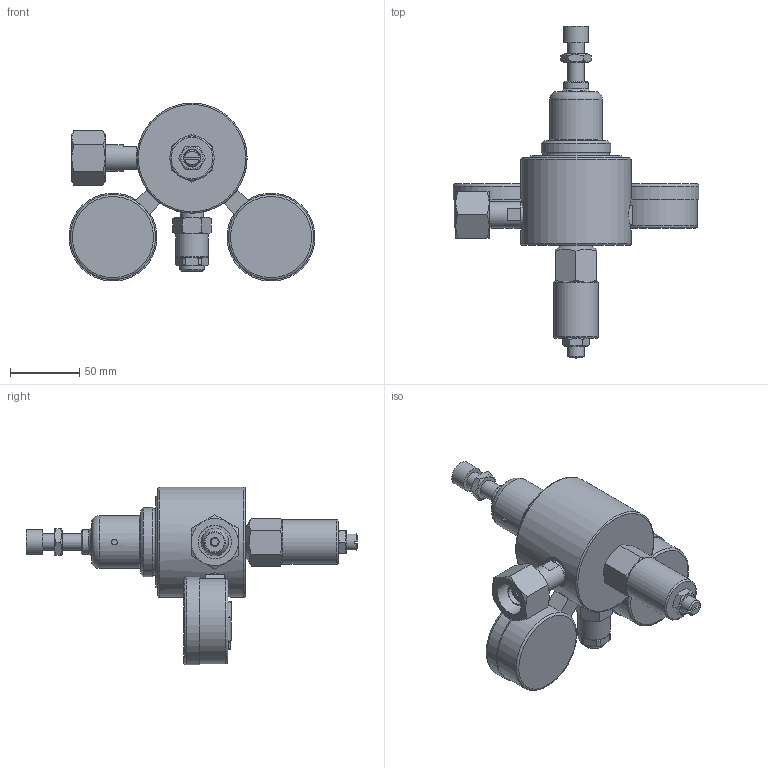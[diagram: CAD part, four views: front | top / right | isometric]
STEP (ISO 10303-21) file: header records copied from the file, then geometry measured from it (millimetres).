
FILE_DESCRIPTION(/* description */ ('PRESSURE REGULATOR'),/* implementation_level */ '2;1');
FILE_NAME(/* name */ '31200#02J0E099A38.stp',/* time_stamp */ '2024-03-22T08:53:53+01:00',/* author */ ('FrancescoLazio'),/* organization */ (''),/* preprocessor_version */ 'ST-DEVELOPER v19.2',/* originating_system */ 'Autodesk Inventor 2024',/* authorisation */ '');
FILE_SCHEMA (('AUTOMOTIVE_DESIGN { 1 0 10303 214 3 1 1 }'));
Length unit declared in the file: millimetre
Products named in the file (25): C81050; 0AANEC12; 0AANEC; 0AANCC08; 0AANEC_1; Vetro63; C43014; P43057; 0DAB10700; P20014; C51003; C51003_1; P21029; P21028; P38019; P43087; P28008; P34022; NP023.06; P43004; P20005; P28048; P47007; P28016; P25009
Assembly tree (25 placements, depth 3):
  C81050
    0AANEC12
      0AANEC
      Vetro63
    0AANCC08
      0AANEC_1
      Vetro63
    C43014
      P43057
      0DAB10700
    P20014
    C51003
      C51003_1
      P21029
      P21028
      P38019
    P43087
    P28008
    P34022
    NP023.06
    P43004
    P20005
    P28048
    P47007
    P28016
    P25009
Bounding box: 177.56 x 239.71 x 128.53 mm (x, y, z)
Volume: 382094.4 mm3; surface area: 144641.5 mm2
Topology: 22 solids, 22 shells, 345 faces, 721 edges, 465 vertices
Faces by surface type: plane 155, cylinder 92, cone 72, torus 23, bspline 2, sphere 1
Full cylindrical faces by diameter (mm): 4 x1, 4.2 x1, 10.106 x2, 10.376 x2, 11 x4, 11.445 x2, 12 x3, 13.8 x1, 13.916 x2, 14 x1, 14.9 x1, 14.95 x2, 15 x1, 16 x1, 16.376 x1, 16.662 x2, 18 x5, 18.5 x1, 19 x1, 19.2 x1, 19.5 x1, 19.916 x2, 20 x2, 20.8 x1, 22 x3, 23 x3, 23.5 x1, 24 x1, 24.117 x1, 25 x1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
Entity records: 11626 total; most frequent: CARTESIAN_POINT 3438, DIRECTION 1653, ORIENTED_EDGE 1426, EDGE_CURVE 713, AXIS2_PLACEMENT_3D 712, VERTEX_POINT 460, EDGE_LOOP 427, FACE_OUTER_BOUND 339
